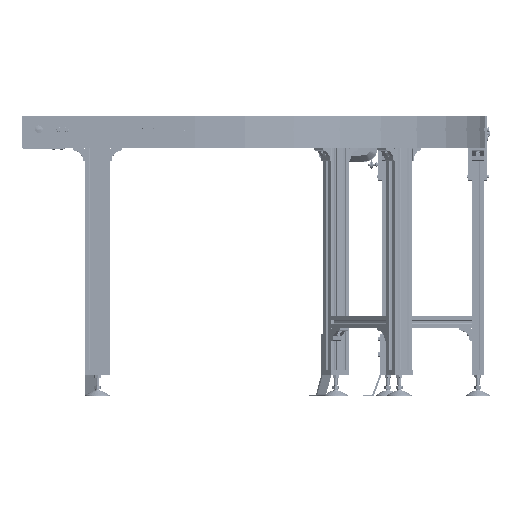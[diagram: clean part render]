
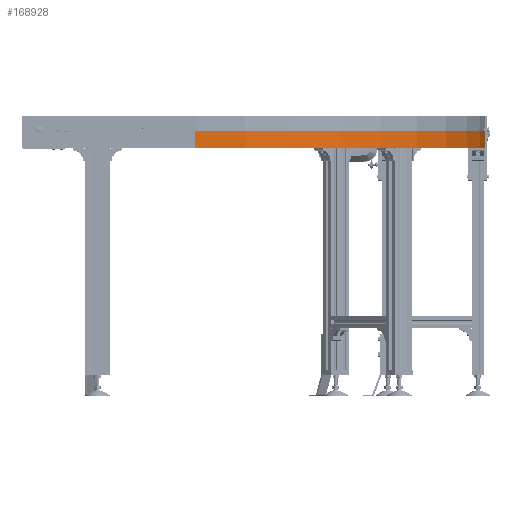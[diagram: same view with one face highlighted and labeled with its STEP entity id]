
A CAD part, front view. The second image highlights one B-rep face of the part: STEP entity #168928.
In plain terms, the highlighted cylindrical face has radius 935 mm (diameter 1870 mm), a partial arc.
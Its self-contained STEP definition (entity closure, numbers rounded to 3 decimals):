
#15592=LINE('',#276294,#31488);
#15634=LINE('',#276441,#31530);
#15635=LINE('',#276444,#31531);
#15768=LINE('',#276927,#31664);
#31488=VECTOR('',#222152,4.45);
#31530=VECTOR('',#222316,4.45);
#31531=VECTOR('',#222319,49.);
#31664=VECTOR('',#222944,49.);
#41165=CYLINDRICAL_SURFACE('',#182511,935.);
#50315=FACE_OUTER_BOUND('',#60288,.T.);
#60288=EDGE_LOOP('',(#143943,#143944,#143945,#143946,#143947,#143948));
#66768=CIRCLE('',#182509,935.);
#66770=CIRCLE('',#182512,935.);
#75213=VERTEX_POINT('',#256344);
#80765=VERTEX_POINT('',#276276);
#80769=VERTEX_POINT('',#276285);
#80811=VERTEX_POINT('',#276423);
#80815=VERTEX_POINT('',#276443);
#80919=VERTEX_POINT('',#276922);
#102381=EDGE_CURVE('',#80769,#80765,#15592,.T.);
#102449=EDGE_CURVE('',#80811,#75213,#15634,.T.);
#102450=EDGE_CURVE('',#80815,#80811,#15635,.T.);
#102703=EDGE_CURVE('',#80919,#80815,#66768,.T.);
#102705=EDGE_CURVE('',#80765,#75213,#66770,.T.);
#102706=EDGE_CURVE('',#80919,#80769,#15768,.T.);
#143943=ORIENTED_EDGE('',*,*,#102450,.T.);
#143944=ORIENTED_EDGE('',*,*,#102449,.T.);
#143945=ORIENTED_EDGE('',*,*,#102705,.F.);
#143946=ORIENTED_EDGE('',*,*,#102381,.F.);
#143947=ORIENTED_EDGE('',*,*,#102706,.F.);
#143948=ORIENTED_EDGE('',*,*,#102703,.T.);
#168928=ADVANCED_FACE('',(#50315),#41165,.T.);
#182509=AXIS2_PLACEMENT_3D('',#276923,#222936,#222937);
#182511=AXIS2_PLACEMENT_3D('',#276925,#222940,#222941);
#182512=AXIS2_PLACEMENT_3D('',#276926,#222942,#222943);
#222152=DIRECTION('',(0.,0.,1.));
#222316=DIRECTION('',(0.,0.,1.));
#222319=DIRECTION('',(0.,0.,1.));
#222936=DIRECTION('center_axis',(0.,0.,
1.));
#222937=DIRECTION('ref_axis',(0.,-1.,0.));
#222940=DIRECTION('center_axis',(0.,0.,
1.));
#222941=DIRECTION('ref_axis',(0.,-1.,0.));
#222942=DIRECTION('center_axis',(0.,0.,
1.));
#222943=DIRECTION('ref_axis',(0.,-1.,0.));
#222944=DIRECTION('',(0.,0.,1.));
#256344=CARTESIAN_POINT('',(1491.,767.5,54.45));
#276276=CARTESIAN_POINT('',(556.,-167.5,54.45));
#276285=CARTESIAN_POINT('',(556.,-167.5,50.));
#276294=CARTESIAN_POINT('',(556.,-167.5,1.));
#276423=CARTESIAN_POINT('',(1491.,767.5,50.));
#276441=CARTESIAN_POINT('',(1491.,767.5,1.));
#276443=CARTESIAN_POINT('',(1491.,767.5,1.));
#276444=CARTESIAN_POINT('',(1491.,767.5,1.));
#276922=CARTESIAN_POINT('',(556.,-167.5,1.));
#276923=CARTESIAN_POINT('Origin',(556.,767.5,1.));
#276925=CARTESIAN_POINT('Origin',(556.,767.5,27.725));
#276926=CARTESIAN_POINT('Origin',(556.,767.5,54.45));
#276927=CARTESIAN_POINT('',(556.,-167.5,1.));
